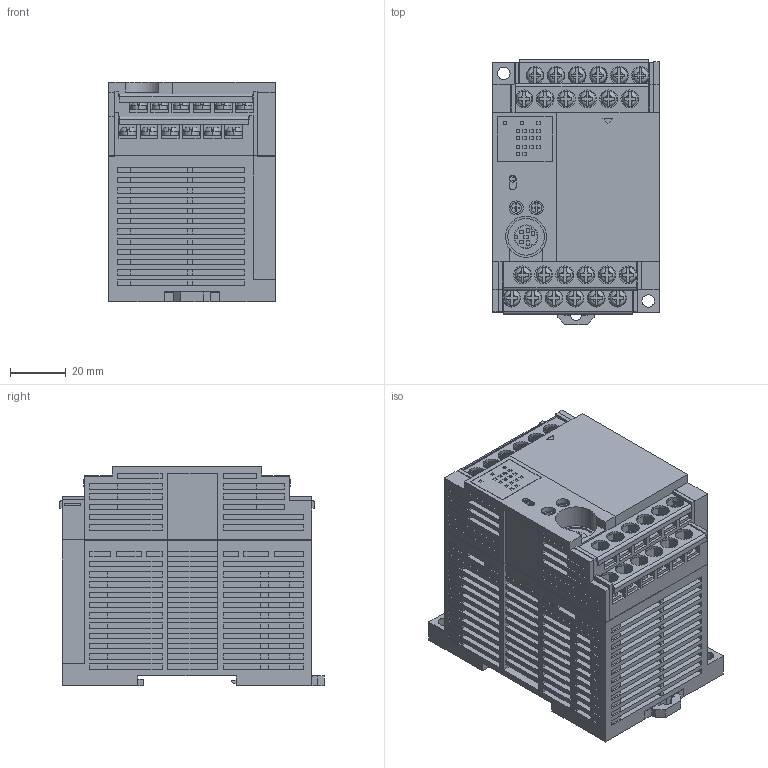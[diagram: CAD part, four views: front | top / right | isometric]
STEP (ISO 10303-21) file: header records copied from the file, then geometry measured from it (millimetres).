
FILE_DESCRIPTION (( 'STEP AP214' ), '1' );
FILE_NAME ('afpx-c14.step', '2009-08-28T01:46:05', ( '' ), ( 'PanasonicElectricWorks' ), '', '', '' );
FILE_SCHEMA (( 'AUTOMOTIVE_DESIGN' ));
Length unit declared in the file: millimetre
Products named in the file (1): afpx-c14
Bounding box: 60 x 95.4 x 79 mm (x, y, z)
Volume: 355828.2 mm3; surface area: 65976.8 mm2
Topology: 2 solids, 2 shells, 2193 faces, 5977 edges, 3919 vertices
Faces by surface type: plane 1984, cylinder 161, torus 48
Entity records: 93584 total; most frequent: CARTESIAN_POINT 13866, ORIENTED_EDGE 11954, DIRECTION 10675, EDGE_CURVE 5977, VECTOR 5091, LINE 5091, VERTEX_POINT 3919, AXIS2_PLACEMENT_3D 2792
